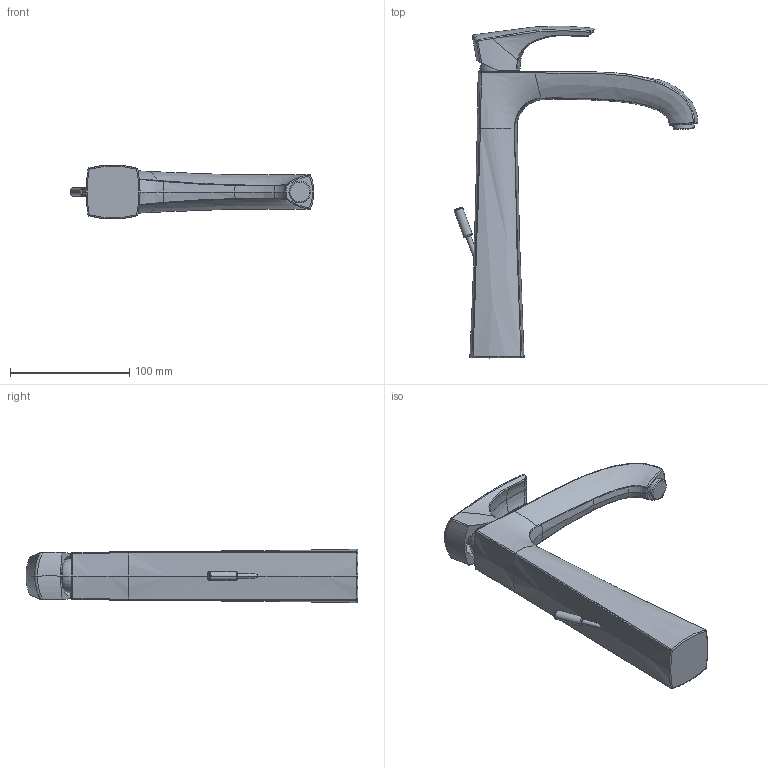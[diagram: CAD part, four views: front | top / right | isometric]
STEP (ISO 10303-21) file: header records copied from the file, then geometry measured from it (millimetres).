
FILE_DESCRIPTION(('CoCreate Modeling STEP Export'),'2;1');
FILE_NAME('LADY.211LL.stp','2012-06-04T 9:34:23',(''),(''),'CoCreate Modeling STEP processor for AP214 (Solid Model)','CoCreate Modeling 17.0 01-Apr-2010 (C) Parametric Technology GmbH','');
FILE_SCHEMA(('AUTOMOTIVE_DESIGN { 1 0 10303 214 1 1 1 1 }'));
Length unit declared in the file: millimetre
Products named in the file (1): Vol1è
Bounding box: 204.29 x 278.26 x 45.26 mm (x, y, z)
Surface area: 65426.1 mm2 (no closed solid volume)
Topology: 0 solids, 2 shells, 225 faces, 516 edges, 291 vertices
Faces by surface type: bspline 163, cylinder 23, torus 19, plane 14, cone 6
Entity records: 19715 total; most frequent: CARTESIAN_POINT 15991, ORIENTED_EDGE 1020, EDGE_CURVE 510, DIRECTION 369, VERTEX_POINT 291, B_SPLINE_CURVE_WITH_KNOTS 258, EDGE_LOOP 229, FACE_OUTER_BOUND 225
